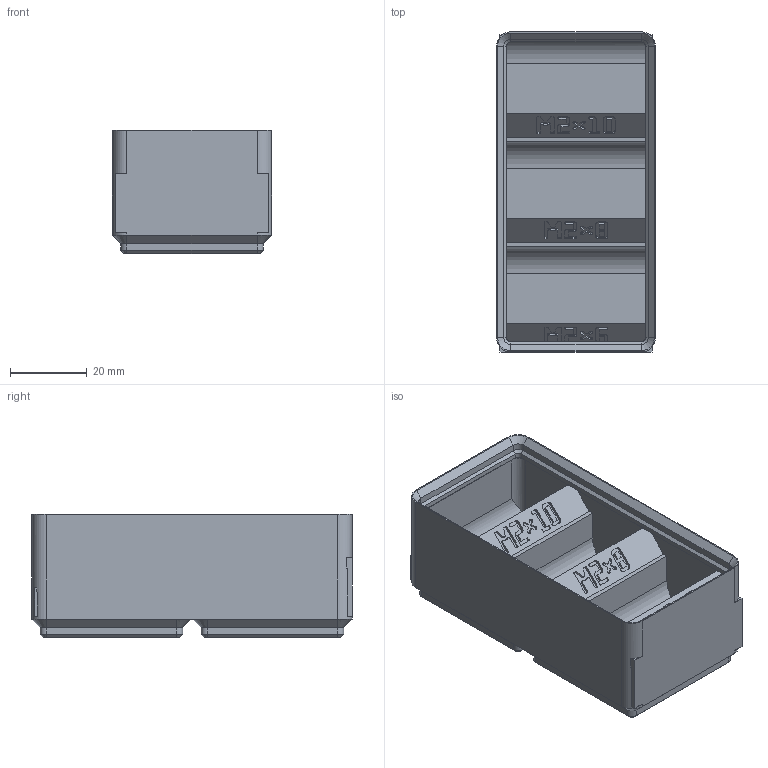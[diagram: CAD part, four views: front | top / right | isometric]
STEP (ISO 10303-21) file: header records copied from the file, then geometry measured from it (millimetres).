
FILE_DESCRIPTION(('Open CASCADE Model'),'2;1');
FILE_NAME('Open CASCADE Shape Model','2026-11-03T10:59:28',('Author'),( 'Open CASCADE'),'Open CASCADE STEP processor 8.0','build123d', 'Unknown');
FILE_SCHEMA(('AUTOMOTIVE_DESIGN { 1 0 10303 214 1 1 1 1 }'));
Products named in the file (1): COMPOUND
Bounding box: 41.5 x 83.5 x 32.1 mm (x, y, z)
Volume: 31192.9 mm3; surface area: 24731.2 mm2
Topology: 1 solids, 1 shells, 1499 faces, 4357 edges, 2882 vertices
Faces by surface type: plane 1440, cylinder 31, cone 28
Entity records: 104951 total; most frequent: CARTESIAN_POINT 18146, DIRECTION 15775, LINE 12559, VECTOR 12559, ORIENTED_EDGE 8714, PCURVE 8714, DEFINITIONAL_REPRESENTATION 8714, EDGE_CURVE 4357
